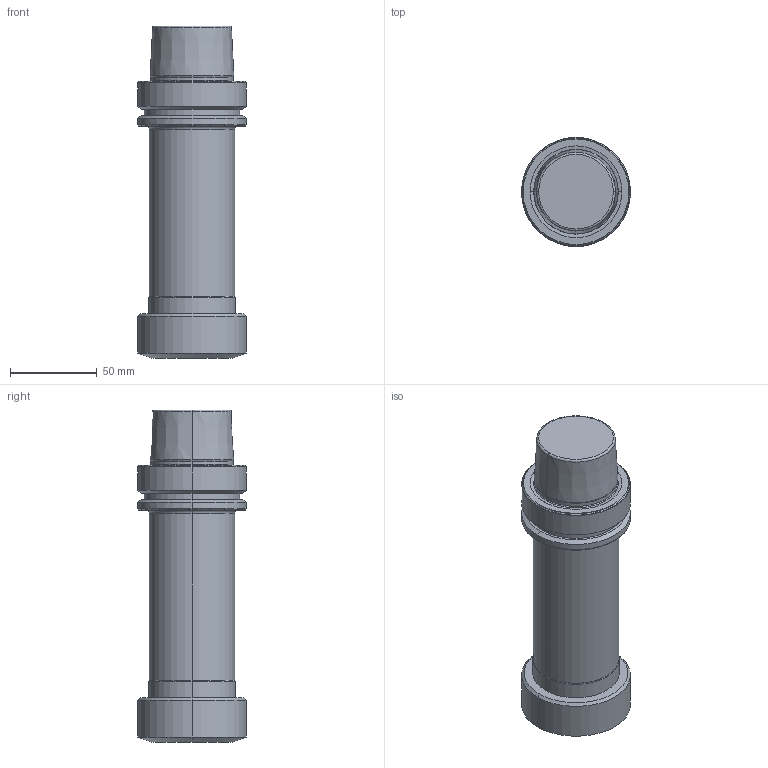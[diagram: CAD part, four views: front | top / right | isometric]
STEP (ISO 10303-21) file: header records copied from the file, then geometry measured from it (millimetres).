
FILE_DESCRIPTION (( 'STEP AP203' ), '1' );
FILE_NAME ('HSK-A 63 ER 40 160 6.3G 20000 SL.STEP', '2019-05-10T06:49:39', ( '' ), ( '' ), 'SwSTEP 2.0', 'SolidWorks 2014', '' );
FILE_SCHEMA (( 'CONFIG_CONTROL_DESIGN' ));
Length unit declared in the file: millimetre
Products named in the file (1): HSK-A 63 ER 40 160 6.3G 20000 SL
Bounding box: 63 x 63 x 191.9 mm (x, y, z)
Volume: 418221.7 mm3; surface area: 40125.8 mm2
Topology: 1 solids, 1 shells, 55 faces, 108 edges, 60 vertices
Faces by surface type: cone 20, torus 14, cylinder 14, plane 7
Entity records: 1485 total; most frequent: DIRECTION 294, CARTESIAN_POINT 224, ORIENTED_EDGE 216, AXIS2_PLACEMENT_3D 130, EDGE_CURVE 108, CIRCLE 74, VERTEX_POINT 60, EDGE_LOOP 60
